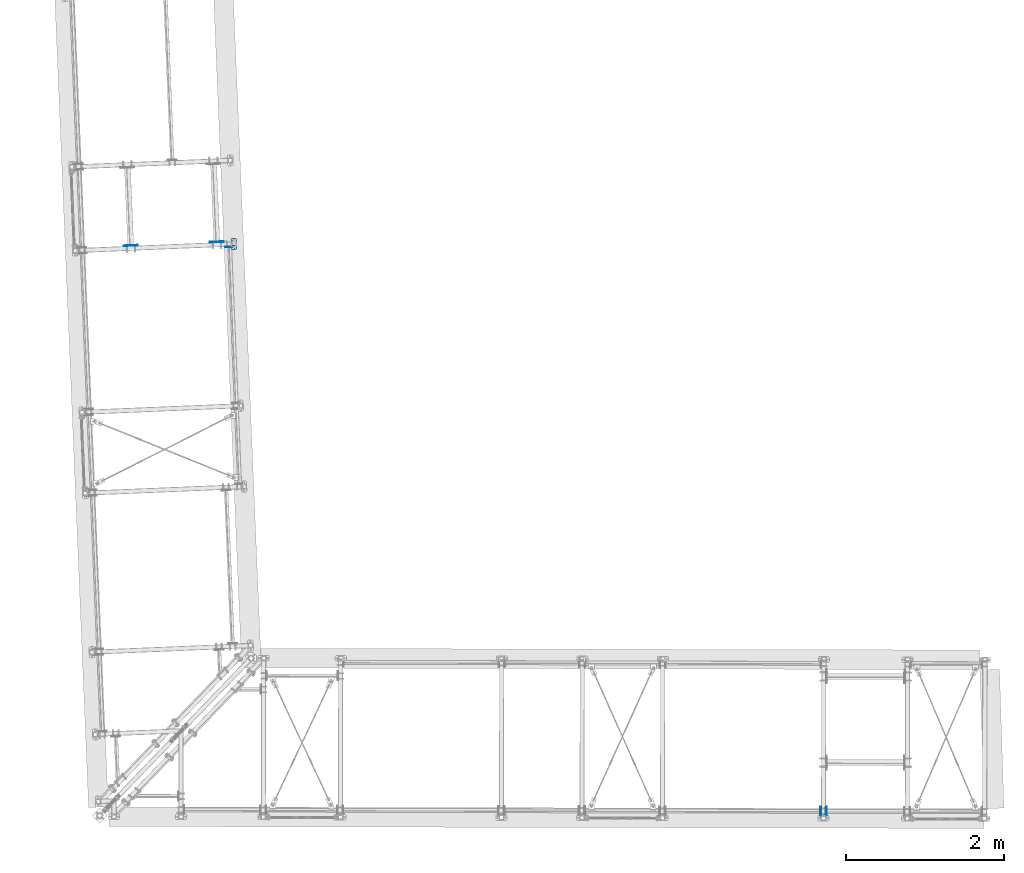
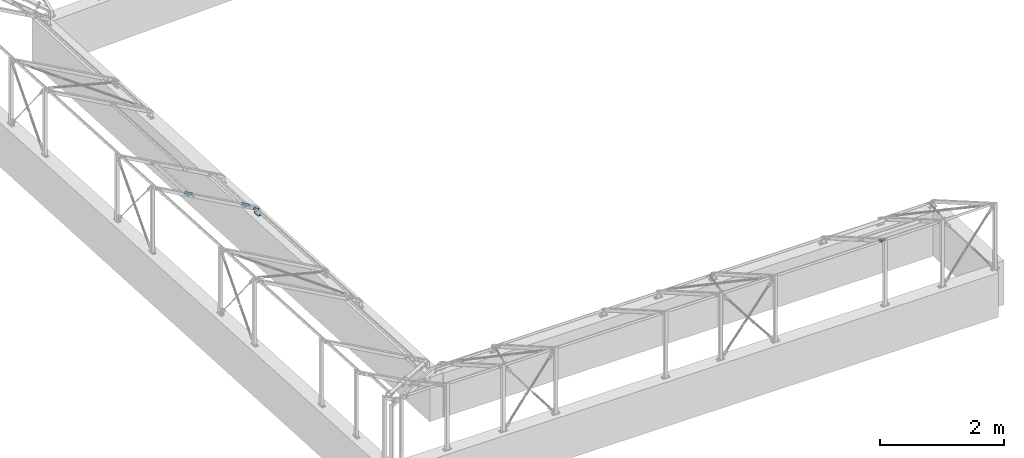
# One storey, part 41 of 288: 6 plates, 36 openings.
"""IFC2X3 building model written with IfcOpenShell, lengths in millimetres."""

from ifc_helpers import new_model, entity, si_unit, converted_unit, point, frame, frame_2d, origin, origin_with_axes, origin_2d_with_axis, place, context, project, spatial, polyline, circle_curve, line_curve, trimmed, segment, composite_curve, circle, outline, extrude, material, layer, layer_set, element, save


model = new_model("IFC2X3")

# Units and contexts
model_context = context("Model", 3, precision=1e-09, world=origin_with_axes())
ifc_project = project(units=[si_unit("LENGTHUNIT", "METRE", prefix="MILLI"), si_unit("AREAUNIT", "SQUARE_METRE"), si_unit("VOLUMEUNIT", "CUBIC_METRE"), converted_unit("PLANEANGLEUNIT", "DEGREE", entity("IfcPlaneAngleMeasure", 0.01745329), si_unit("PLANEANGLEUNIT", "RADIAN"), dimensions=[0, 0, 0, 0, 0, 0, 0])], contexts=[model_context])

# Site, building, storey
site_placement = place(None, origin_with_axes())
site = spatial("IfcSite", under=ifc_project, at=site_placement, Name="Remont ?wietlik?w nad MC w NCPP w Opolu", CompositionType="ELEMENT")
building_placement = place(site_placement, origin_with_axes())
building = spatial("IfcBuilding", under=site, at=building_placement, Name="Konstrukcja 1", CompositionType="ELEMENT")
storey_placement = place(building_placement, origin_with_axes())
storey = spatial("IfcBuildingStorey", under=building, at=storey_placement, Name="Default Storey", CompositionType="ELEMENT", Elevation=0.0)

# Plate, openings
ifc_material = material(Name="S235")
ifc_layer_1 = layer(ifc_material, 8.0)
ifc_layer_set_1 = layer_set([ifc_layer_1], Name="S235")
plate_1_placement = place(None, frame((1475.574847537, 7080.214060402, 149.694694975), z_axis=(-0.041662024, 0.999131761, 1.7472e-05), x_axis=(0.499566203, 0.020815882, 0.866025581)))
plate_1 = element("IfcPlate", 1, at=plate_1_placement, inside=storey, material=ifc_layer_set_1, Name="-", ObjectType="-", context=model_context, shape_type="SweptSolid", body=[
    extrude(outline(polyline([(0.0, 0.0), (40.0, 0.0), (40.0, 120.0), (0.0, 120.0), (0.0, 0.0)])), origin_with_axes(), (0.0, 0.0, 1.0), 8.0),
])
opening_1_placement = place(plate_1_placement, frame((0.0, 0.0, -0.01), z_axis=(0.0, 0.0, 1.0), x_axis=(1.0, 0.0, 0.0)))
element("IfcOpeningElement", 2, at=opening_1_placement, cuts=plate_1, ObjectType="Opening", context=model_context, shape_type="SweptSolid", body=[
    extrude(outline(composite_curve([segment(trimmed(line_curve((40.0, 0.0), (0.0, 1.0), 10.0), [point((40.0, 0.0))], [point((40.0, 10.0))], True, "CARTESIAN"), True, "CONTINUOUS"), segment(trimmed(circle_curve(frame_2d((30.0, 10.0), x_axis=(-1.0, 0.0)), 10.0), [point((40.0, 10.0))], [point((30.0, 0.0))], False, "CARTESIAN"), True, "CONTINUOUS"), segment(trimmed(line_curve((30.0, 0.0), (1.0, 0.0), 10.0), [point((30.0, 0.0))], [point((40.0, 0.0))], True, "CARTESIAN"), True, "CONTINUOUS")], self_intersect=False)), origin(), (0.0, 0.0, 1.0), 8.02),
])
opening_2_placement = place(plate_1_placement, frame((0.0, 0.0, -0.01), z_axis=(0.0, 0.0, 1.0), x_axis=(1.0, 0.0, 0.0)))
element("IfcOpeningElement", 3, at=opening_2_placement, cuts=plate_1, ObjectType="Opening", context=model_context, shape_type="SweptSolid", body=[
    extrude(outline(composite_curve([segment(trimmed(line_curve((0.0, 0.0), (1.0, 0.0), 10.0), [point((0.0, 0.0))], [point((10.0, 0.0))], True, "CARTESIAN"), True, "CONTINUOUS"), segment(trimmed(circle_curve(frame_2d((10.0, 10.0), x_axis=(-1.0, 0.0)), 10.0), [point((10.0, 0.0))], [point((0.0, 10.0))], False, "CARTESIAN"), True, "CONTINUOUS"), segment(trimmed(line_curve((0.0, 10.0), (0.0, -1.0), 10.0), [point((0.0, 10.0))], [point((0.0, 0.0))], True, "CARTESIAN"), True, "CONTINUOUS")], self_intersect=False)), origin(), (0.0, 0.0, 1.0), 8.02),
])
opening_3_placement = place(plate_1_placement, frame((0.0, 0.0, -0.01), z_axis=(0.0, 0.0, 1.0), x_axis=(1.0, 0.0, 0.0)))
element("IfcOpeningElement", 4, at=opening_3_placement, cuts=plate_1, ObjectType="Opening", context=model_context, shape_type="SweptSolid", body=[
    extrude(outline(composite_curve([segment(trimmed(line_curve((40.0, 120.0), (-1.0, 0.0), 10.0), [point((40.0, 120.0))], [point((30.0, 120.0))], True, "CARTESIAN"), True, "CONTINUOUS"), segment(trimmed(circle_curve(frame_2d((30.0, 110.0), x_axis=(-1.0, 0.0)), 10.0), [point((30.0, 120.0))], [point((40.0, 110.0))], False, "CARTESIAN"), True, "CONTINUOUS"), segment(trimmed(line_curve((40.0, 110.0), (0.0, 1.0), 10.0), [point((40.0, 110.0))], [point((40.0, 120.0))], True, "CARTESIAN"), True, "CONTINUOUS")], self_intersect=False)), origin(), (0.0, 0.0, 1.0), 8.02),
])
opening_4_placement = place(plate_1_placement, frame((0.0, 0.0, -0.01), z_axis=(0.0, 0.0, 1.0), x_axis=(1.0, 0.0, 0.0)))
element("IfcOpeningElement", 5, at=opening_4_placement, cuts=plate_1, ObjectType="Opening", context=model_context, shape_type="SweptSolid", body=[
    extrude(outline(composite_curve([segment(trimmed(line_curve((0.0, 120.0), (0.0, -1.0), 10.0), [point((0.0, 120.0))], [point((0.0, 110.0))], True, "CARTESIAN"), True, "CONTINUOUS"), segment(trimmed(circle_curve(frame_2d((10.0, 110.0), x_axis=(-1.0, 0.0)), 10.0), [point((0.0, 110.0))], [point((10.0, 120.0))], False, "CARTESIAN"), True, "CONTINUOUS"), segment(trimmed(line_curve((10.0, 120.0), (-1.0, 0.0), 10.0), [point((10.0, 120.0))], [point((0.0, 120.0))], True, "CARTESIAN"), True, "CONTINUOUS")], self_intersect=False)), origin(), (0.0, 0.0, 1.0), 8.02),
])
opening_5_placement = place(plate_1_placement, frame((19.99982953, 27.001003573, 8.499903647), z_axis=(-2.0054e-05, 4.2e-07, 1.0), x_axis=(1.0, 0.0, 2.0054e-05)))
element("IfcOpeningElement", 6, at=opening_5_placement, cuts=plate_1, ObjectType="Opening", context=model_context, shape_type="SweptSolid", body=[
    extrude(circle(Radius=7.001, at=frame_2d((-4e-09, -7.001), x_axis=(1.0, 0.0))), origin(), (0.0, 0.0, -1.0), 9.000033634),
])
opening_6_placement = place(plate_1_placement, frame((19.999829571, 107.001003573, 8.499870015), z_axis=(-2.0054e-05, 4.2e-07, 1.0), x_axis=(1.0, 0.0, 2.0054e-05)))
element("IfcOpeningElement", 7, at=opening_6_placement, cuts=plate_1, ObjectType="Opening", context=model_context, shape_type="SweptSolid", body=[
    extrude(circle(Radius=7.001, at=frame_2d((-4e-09, -7.001), x_axis=(1.0, 0.0))), origin(), (0.0, 0.0, -1.0), 9.000033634),
])

plate_2_placement = place(None, frame((191.035896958, 7104.706763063, 881.983931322), z_axis=(0.041671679, -0.999131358, 1.05e-07), x_axis=(0.865273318, 0.036088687, -0.499999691)))
plate_2 = element("IfcPlate", 8, at=plate_2_placement, inside=storey, material=ifc_layer_set_1, Name="-", ObjectType="-", context=model_context, shape_type="SweptSolid", body=[
    extrude(outline(polyline([(0.0, 0.0), (179.999999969, 0.0), (179.999999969, 60.000000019), (0.0, 60.000000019), (0.0, 0.0)])), origin_with_axes(), (0.0, 0.0, 1.0), 8.0),
])
opening_7_placement = place(plate_2_placement, frame((0.0, 0.0, -0.01), z_axis=(0.0, 0.0, 1.0), x_axis=(1.0, 0.0, 0.0)))
element("IfcOpeningElement", 9, at=opening_7_placement, cuts=plate_2, ObjectType="Opening", context=model_context, shape_type="SweptSolid", body=[
    extrude(outline(composite_curve([segment(trimmed(line_curve((0.0, 0.0), (1.0, 0.0), 10.0), [point((0.0, 0.0))], [point((10.0, 0.0))], True, "CARTESIAN"), True, "CONTINUOUS"), segment(trimmed(circle_curve(frame_2d((10.0, 10.0), x_axis=(-1.0, 0.0)), 10.0), [point((10.0, 0.0))], [point((0.0, 10.0))], False, "CARTESIAN"), True, "CONTINUOUS"), segment(trimmed(line_curve((0.0, 10.0), (0.0, -1.0), 10.0), [point((0.0, 10.0))], [point((0.0, 0.0))], True, "CARTESIAN"), True, "CONTINUOUS")], self_intersect=False)), origin(), (0.0, 0.0, 1.0), 8.02),
])
opening_8_placement = place(plate_2_placement, frame((0.0, 0.0, -0.01), z_axis=(0.0, 0.0, 1.0), x_axis=(1.0, 0.0, 0.0)))
element("IfcOpeningElement", 10, at=opening_8_placement, cuts=plate_2, ObjectType="Opening", context=model_context, shape_type="SweptSolid", body=[
    extrude(outline(composite_curve([segment(trimmed(line_curve((0.0, 60.000000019), (0.0, -1.0), 10.0), [point((0.0, 60.000000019))], [point((0.0, 50.000000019))], True, "CARTESIAN"), True, "CONTINUOUS"), segment(trimmed(circle_curve(frame_2d((10.0, 50.000000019), x_axis=(-1.0, 0.0)), 10.0), [point((0.0, 50.000000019))], [point((10.0, 60.000000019))], False, "CARTESIAN"), True, "CONTINUOUS"), segment(trimmed(line_curve((10.0, 60.000000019), (-1.0, 0.0), 10.0), [point((10.0, 60.000000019))], [point((0.0, 60.000000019))], True, "CARTESIAN"), True, "CONTINUOUS")], self_intersect=False)), origin(), (0.0, 0.0, 1.0), 8.02),
])
opening_9_placement = place(plate_2_placement, frame((0.0, 0.0, -0.01), z_axis=(0.0, 0.0, 1.0), x_axis=(1.0, 0.0, 0.0)))
element("IfcOpeningElement", 11, at=opening_9_placement, cuts=plate_2, ObjectType="Opening", context=model_context, shape_type="SweptSolid", body=[
    extrude(outline(composite_curve([segment(trimmed(line_curve((179.999999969, 60.000000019), (-1.0, 0.0), 10.0), [point((179.999999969, 60.000000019))], [point((169.999999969, 60.000000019))], True, "CARTESIAN"), True, "CONTINUOUS"), segment(trimmed(circle_curve(frame_2d((169.999999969, 50.000000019), x_axis=(-1.0, 0.0)), 10.0), [point((169.999999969, 60.000000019))], [point((179.999999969, 50.000000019))], False, "CARTESIAN"), True, "CONTINUOUS"), segment(trimmed(line_curve((179.999999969, 50.000000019), (0.0, 1.0), 10.0), [point((179.999999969, 50.000000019))], [point((179.999999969, 60.000000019))], True, "CARTESIAN"), True, "CONTINUOUS")], self_intersect=False)), origin(), (0.0, 0.0, 1.0), 8.02),
])
opening_10_placement = place(plate_2_placement, frame((0.0, 0.0, -0.01), z_axis=(0.0, 0.0, 1.0), x_axis=(1.0, 0.0, 0.0)))
element("IfcOpeningElement", 12, at=opening_10_placement, cuts=plate_2, ObjectType="Opening", context=model_context, shape_type="SweptSolid", body=[
    extrude(outline(composite_curve([segment(trimmed(line_curve((179.999999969, 0.0), (0.0, 1.0), 10.0), [point((179.999999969, 0.0))], [point((179.999999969, 10.0))], True, "CARTESIAN"), True, "CONTINUOUS"), segment(trimmed(circle_curve(frame_2d((169.999999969, 10.0), x_axis=(-1.0, 0.0)), 10.0), [point((179.999999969, 10.0))], [point((169.999999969, 0.0))], False, "CARTESIAN"), True, "CONTINUOUS"), segment(trimmed(line_curve((169.999999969, 0.0), (1.0, 0.0), 10.0), [point((169.999999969, 0.0))], [point((179.999999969, 0.0))], True, "CARTESIAN"), True, "CONTINUOUS")], self_intersect=False)), origin(), (0.0, 0.0, 1.0), 8.02),
])
opening_11_placement = place(plate_2_placement, frame((39.000999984, 30.000000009, 8.5), z_axis=(0.0, 0.0, 1.0), x_axis=(1.0, 0.0, 0.0)))
element("IfcOpeningElement", 13, at=opening_11_placement, cuts=plate_2, ObjectType="Opening", context=model_context, shape_type="SweptSolid", body=[
    extrude(circle(Radius=9.001, at=frame_2d((-9.001, 0.0), x_axis=(1.0, 0.0))), origin(), (0.0, 0.0, -1.0), 9.0),
])
opening_12_placement = place(plate_2_placement, frame((159.000999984, 30.000000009, 8.5), z_axis=(0.0, 0.0, 1.0), x_axis=(1.0, 0.0, 0.0)))
element("IfcOpeningElement", 14, at=opening_12_placement, cuts=plate_2, ObjectType="Opening", context=model_context, shape_type="SweptSolid", body=[
    extrude(circle(Radius=9.001, at=frame_2d((-9.001, 0.0), x_axis=(1.0, 0.0))), origin(), (0.0, 0.0, -1.0), 9.0),
])

plate_3_placement = place(None, frame((1311.264015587, 7151.42960328, 303.962909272), z_axis=(-0.041671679, 0.999131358, -1.05e-07), x_axis=(0.865273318, 0.036088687, -0.499999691)))
plate_3 = element("IfcPlate", 15, at=plate_3_placement, inside=storey, material=ifc_layer_set_1, Name="-", ObjectType="-", context=model_context, shape_type="SweptSolid", body=[
    extrude(outline(polyline([(0.0, 0.0), (179.999999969, 0.0), (179.999999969, 60.000000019), (0.0, 60.000000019), (0.0, 0.0)])), origin_with_axes(), (0.0, 0.0, -1.0), 8.0),
])
opening_13_placement = place(plate_3_placement, frame((0.0, 0.0, 0.01), z_axis=(0.0, 0.0, 1.0), x_axis=(1.0, 0.0, 0.0)))
element("IfcOpeningElement", 16, at=opening_13_placement, cuts=plate_3, ObjectType="Opening", context=model_context, shape_type="SweptSolid", body=[
    extrude(outline(composite_curve([segment(trimmed(line_curve((0.0, 0.0), (1.0, 0.0), 10.0), [point((0.0, 0.0))], [point((10.0, 0.0))], True, "CARTESIAN"), True, "CONTINUOUS"), segment(trimmed(circle_curve(frame_2d((10.0, 10.0), x_axis=(-1.0, 0.0)), 10.0), [point((10.0, 0.0))], [point((0.0, 10.0))], False, "CARTESIAN"), True, "CONTINUOUS"), segment(trimmed(line_curve((0.0, 10.0), (0.0, -1.0), 10.0), [point((0.0, 10.0))], [point((0.0, 0.0))], True, "CARTESIAN"), True, "CONTINUOUS")], self_intersect=False)), origin(), (0.0, 0.0, -1.0), 8.02),
])
opening_14_placement = place(plate_3_placement, frame((0.0, 60.000000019, 0.01), z_axis=(0.0, 0.0, 1.0), x_axis=(0.0, -1.0, 0.0)))
element("IfcOpeningElement", 17, at=opening_14_placement, cuts=plate_3, ObjectType="Opening", context=model_context, shape_type="SweptSolid", body=[
    extrude(outline(composite_curve([segment(trimmed(line_curve((0.0, 0.0), (1.0, 0.0), 10.0), [point((0.0, 0.0))], [point((10.0, 0.0))], True, "CARTESIAN"), True, "CONTINUOUS"), segment(trimmed(circle_curve(frame_2d((10.0, 10.0), x_axis=(-1.0, 0.0)), 10.0), [point((10.0, 0.0))], [point((0.0, 10.0))], False, "CARTESIAN"), True, "CONTINUOUS"), segment(trimmed(line_curve((0.0, 10.0), (0.0, -1.0), 10.0), [point((0.0, 10.0))], [point((0.0, 0.0))], True, "CARTESIAN"), True, "CONTINUOUS")], self_intersect=False)), origin(), (0.0, 0.0, -1.0), 8.02),
])
opening_15_placement = place(plate_3_placement, frame((179.999999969, 60.000000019, 0.01), z_axis=(0.0, 0.0, 1.0), x_axis=(-1.0, 0.0, 0.0)))
element("IfcOpeningElement", 18, at=opening_15_placement, cuts=plate_3, ObjectType="Opening", context=model_context, shape_type="SweptSolid", body=[
    extrude(outline(composite_curve([segment(trimmed(line_curve((0.0, 0.0), (1.0, 0.0), 10.0), [point((0.0, 0.0))], [point((10.0, 0.0))], True, "CARTESIAN"), True, "CONTINUOUS"), segment(trimmed(circle_curve(frame_2d((10.0, 10.0), x_axis=(-1.0, 0.0)), 10.0), [point((10.0, 0.0))], [point((0.0, 10.0))], False, "CARTESIAN"), True, "CONTINUOUS"), segment(trimmed(line_curve((0.0, 10.0), (0.0, -1.0), 10.0), [point((0.0, 10.0))], [point((0.0, 0.0))], True, "CARTESIAN"), True, "CONTINUOUS")], self_intersect=False)), origin(), (0.0, 0.0, -1.0), 8.02),
])
opening_16_placement = place(plate_3_placement, frame((179.999999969, 0.0, 0.01), z_axis=(0.0, 0.0, 1.0), x_axis=(0.0, 1.0, 0.0)))
element("IfcOpeningElement", 19, at=opening_16_placement, cuts=plate_3, ObjectType="Opening", context=model_context, shape_type="SweptSolid", body=[
    extrude(outline(composite_curve([segment(trimmed(line_curve((0.0, 0.0), (1.0, 0.0), 10.0), [point((0.0, 0.0))], [point((10.0, 0.0))], True, "CARTESIAN"), True, "CONTINUOUS"), segment(trimmed(circle_curve(frame_2d((10.0, 10.0), x_axis=(-1.0, 0.0)), 10.0), [point((10.0, 0.0))], [point((0.0, 10.0))], False, "CARTESIAN"), True, "CONTINUOUS"), segment(trimmed(line_curve((0.0, 10.0), (0.0, -1.0), 10.0), [point((0.0, 10.0))], [point((0.0, 0.0))], True, "CARTESIAN"), True, "CONTINUOUS")], self_intersect=False)), origin(), (0.0, 0.0, -1.0), 8.02),
])
opening_17_placement = place(plate_3_placement, frame((89.999999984, 30.000000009, -8.5), z_axis=(0.0, 0.0, 1.0), x_axis=(-1.0, 0.0, 0.0)))
element("IfcOpeningElement", 20, at=opening_17_placement, cuts=plate_3, ObjectType="Opening", context=model_context, shape_type="SweptSolid", body=[
    extrude(circle(Radius=9.001, at=frame_2d((60.0, 0.0), x_axis=(1.0, 0.0))), origin(), (0.0, 0.0, 1.0), 9.0),
])
opening_18_placement = place(plate_3_placement, frame((89.999999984, 30.000000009, -8.5), z_axis=(0.0, 0.0, 1.0), x_axis=(-1.0, 0.0, 0.0)))
element("IfcOpeningElement", 21, at=opening_18_placement, cuts=plate_3, ObjectType="Opening", context=model_context, shape_type="SweptSolid", body=[
    extrude(circle(Radius=9.001, at=frame_2d((-60.0, 0.0), x_axis=(1.0, 0.0))), origin(), (0.0, 0.0, 1.0), 9.0),
])

plate_4_placement = place(None, frame((9086.240256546, -120.843531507, 1232.679630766), z_axis=(0.999997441, -0.002262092, 1.05e-07), x_axis=(0.001959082, 0.866023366, -0.499999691)))
plate_4 = element("IfcPlate", 22, at=plate_4_placement, inside=storey, material=ifc_layer_set_1, Name="-", ObjectType="-", context=model_context, shape_type="SweptSolid", body=[
    extrude(outline(polyline([(0.0, 0.0), (120.0, 0.0), (120.0, 40.0), (0.0, 40.0), (0.0, 0.0)])), origin_with_axes(), (0.0, 0.0, 1.0), 8.0),
])
opening_19_placement = place(plate_4_placement, frame((0.0, 0.0, -0.01), z_axis=(0.0, 0.0, 1.0), x_axis=(1.0, 0.0, 0.0)))
element("IfcOpeningElement", 23, at=opening_19_placement, cuts=plate_4, ObjectType="Opening", context=model_context, shape_type="SweptSolid", body=[
    extrude(outline(composite_curve([segment(trimmed(line_curve((0.0, 40.0), (0.0, -1.0), 10.0), [point((0.0, 40.0))], [point((0.0, 30.0))], True, "CARTESIAN"), True, "CONTINUOUS"), segment(trimmed(circle_curve(frame_2d((10.0, 30.0), x_axis=(-1.0, 0.0)), 10.0), [point((0.0, 30.0))], [point((10.0, 40.0))], False, "CARTESIAN"), True, "CONTINUOUS"), segment(trimmed(line_curve((10.0, 40.0), (-1.0, 0.0), 10.0), [point((10.0, 40.0))], [point((0.0, 40.0))], True, "CARTESIAN"), True, "CONTINUOUS")], self_intersect=False)), origin(), (0.0, 0.0, 1.0), 8.02),
])
opening_20_placement = place(plate_4_placement, frame((0.0, 0.0, -0.01), z_axis=(0.0, 0.0, 1.0), x_axis=(1.0, 0.0, 0.0)))
element("IfcOpeningElement", 24, at=opening_20_placement, cuts=plate_4, ObjectType="Opening", context=model_context, shape_type="SweptSolid", body=[
    extrude(outline(composite_curve([segment(trimmed(line_curve((0.0, 0.0), (1.0, 0.0), 10.0), [point((0.0, 0.0))], [point((10.0, 0.0))], True, "CARTESIAN"), True, "CONTINUOUS"), segment(trimmed(circle_curve(frame_2d((10.0, 10.0), x_axis=(-1.0, 0.0)), 10.0), [point((10.0, 0.0))], [point((0.0, 10.0))], False, "CARTESIAN"), True, "CONTINUOUS"), segment(trimmed(line_curve((0.0, 10.0), (0.0, -1.0), 10.0), [point((0.0, 10.0))], [point((0.0, 0.0))], True, "CARTESIAN"), True, "CONTINUOUS")], self_intersect=False)), origin(), (0.0, 0.0, 1.0), 8.02),
])
opening_21_placement = place(plate_4_placement, frame((0.0, 0.0, -0.01), z_axis=(0.0, 0.0, 1.0), x_axis=(1.0, 0.0, 0.0)))
element("IfcOpeningElement", 25, at=opening_21_placement, cuts=plate_4, ObjectType="Opening", context=model_context, shape_type="SweptSolid", body=[
    extrude(outline(composite_curve([segment(trimmed(line_curve((120.0, 40.0), (-1.0, 0.0), 10.0), [point((120.0, 40.0))], [point((110.0, 40.0))], True, "CARTESIAN"), True, "CONTINUOUS"), segment(trimmed(circle_curve(frame_2d((110.0, 30.0), x_axis=(-1.0, 0.0)), 10.0), [point((110.0, 40.0))], [point((120.0, 30.0))], False, "CARTESIAN"), True, "CONTINUOUS"), segment(trimmed(line_curve((120.0, 30.0), (0.0, 1.0), 10.0), [point((120.0, 30.0))], [point((120.0, 40.0))], True, "CARTESIAN"), True, "CONTINUOUS")], self_intersect=False)), origin(), (0.0, 0.0, 1.0), 8.02),
])
opening_22_placement = place(plate_4_placement, frame((0.0, 0.0, -0.01), z_axis=(0.0, 0.0, 1.0), x_axis=(1.0, 0.0, 0.0)))
element("IfcOpeningElement", 26, at=opening_22_placement, cuts=plate_4, ObjectType="Opening", context=model_context, shape_type="SweptSolid", body=[
    extrude(outline(composite_curve([segment(trimmed(line_curve((120.0, 0.0), (0.0, 1.0), 10.0), [point((120.0, 0.0))], [point((120.0, 10.0))], True, "CARTESIAN"), True, "CONTINUOUS"), segment(trimmed(circle_curve(frame_2d((110.0, 10.0), x_axis=(-1.0, 0.0)), 10.0), [point((120.0, 10.0))], [point((110.0, 0.0))], False, "CARTESIAN"), True, "CONTINUOUS"), segment(trimmed(line_curve((110.0, 0.0), (1.0, 0.0), 10.0), [point((110.0, 0.0))], [point((120.0, 0.0))], True, "CARTESIAN"), True, "CONTINUOUS")], self_intersect=False)), origin(), (0.0, 0.0, 1.0), 8.02),
])
opening_23_placement = place(plate_4_placement, frame((27.001, 20.0, -0.5), z_axis=(0.0, 0.0, -1.0), x_axis=(-1.0, 0.0, 0.0)))
element("IfcOpeningElement", 27, at=opening_23_placement, cuts=plate_4, ObjectType="Opening", context=model_context, shape_type="SweptSolid", body=[
    extrude(circle(Radius=7.001, at=frame_2d((7.001, 0.0), x_axis=(1.0, 0.0))), origin(), (0.0, 0.0, -1.0), 9.0),
])
opening_24_placement = place(plate_4_placement, frame((107.001, 20.0, -0.5), z_axis=(0.0, 0.0, -1.0), x_axis=(-1.0, 0.0, 0.0)))
element("IfcOpeningElement", 28, at=opening_24_placement, cuts=plate_4, ObjectType="Opening", context=model_context, shape_type="SweptSolid", body=[
    extrude(circle(Radius=7.001, at=frame_2d((7.001, 0.0), x_axis=(1.0, 0.0))), origin(), (0.0, 0.0, -1.0), 9.0),
])

plate_5_placement = place(None, frame((9016.240285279, -120.685331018, 1232.679370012), z_axis=(0.999997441, -0.002262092, 1.05e-07), x_axis=(0.001959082, 0.866023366, -0.499999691)))
plate_5 = element("IfcPlate", 29, at=plate_5_placement, inside=storey, material=ifc_layer_set_1, Name="-", ObjectType="-", context=model_context, shape_type="SweptSolid", body=[
    extrude(outline(polyline([(0.0, 0.0), (120.0, 0.0), (120.0, 40.0), (0.0, 40.0), (0.0, 0.0)])), origin_with_axes(), (0.0, 0.0, 1.0), 8.0),
])
opening_25_placement = place(plate_5_placement, frame((0.0, 0.0, -0.01), z_axis=(0.0, 0.0, 1.0), x_axis=(1.0, 0.0, 0.0)))
element("IfcOpeningElement", 30, at=opening_25_placement, cuts=plate_5, ObjectType="Opening", context=model_context, shape_type="SweptSolid", body=[
    extrude(outline(composite_curve([segment(trimmed(line_curve((0.0, 40.0), (0.0, -1.0), 10.0), [point((0.0, 40.0))], [point((0.0, 30.0))], True, "CARTESIAN"), True, "CONTINUOUS"), segment(trimmed(circle_curve(frame_2d((10.0, 30.0), x_axis=(-1.0, 0.0)), 10.0), [point((0.0, 30.0))], [point((10.0, 40.0))], False, "CARTESIAN"), True, "CONTINUOUS"), segment(trimmed(line_curve((10.0, 40.0), (-1.0, 0.0), 10.0), [point((10.0, 40.0))], [point((0.0, 40.0))], True, "CARTESIAN"), True, "CONTINUOUS")], self_intersect=False)), origin(), (0.0, 0.0, 1.0), 8.02),
])
opening_26_placement = place(plate_5_placement, frame((0.0, 0.0, -0.01), z_axis=(0.0, 0.0, 1.0), x_axis=(1.0, 0.0, 0.0)))
element("IfcOpeningElement", 31, at=opening_26_placement, cuts=plate_5, ObjectType="Opening", context=model_context, shape_type="SweptSolid", body=[
    extrude(outline(composite_curve([segment(trimmed(line_curve((0.0, 0.0), (1.0, 0.0), 10.0), [point((0.0, 0.0))], [point((10.0, 0.0))], True, "CARTESIAN"), True, "CONTINUOUS"), segment(trimmed(circle_curve(frame_2d((10.0, 10.0), x_axis=(-1.0, 0.0)), 10.0), [point((10.0, 0.0))], [point((0.0, 10.0))], False, "CARTESIAN"), True, "CONTINUOUS"), segment(trimmed(line_curve((0.0, 10.0), (0.0, -1.0), 10.0), [point((0.0, 10.0))], [point((0.0, 0.0))], True, "CARTESIAN"), True, "CONTINUOUS")], self_intersect=False)), origin(), (0.0, 0.0, 1.0), 8.02),
])
opening_27_placement = place(plate_5_placement, frame((0.0, 0.0, -0.01), z_axis=(0.0, 0.0, 1.0), x_axis=(1.0, 0.0, 0.0)))
element("IfcOpeningElement", 32, at=opening_27_placement, cuts=plate_5, ObjectType="Opening", context=model_context, shape_type="SweptSolid", body=[
    extrude(outline(composite_curve([segment(trimmed(line_curve((120.0, 40.0), (-1.0, 0.0), 10.0), [point((120.0, 40.0))], [point((110.0, 40.0))], True, "CARTESIAN"), True, "CONTINUOUS"), segment(trimmed(circle_curve(frame_2d((110.0, 30.0), x_axis=(-1.0, 0.0)), 10.0), [point((110.0, 40.0))], [point((120.0, 30.0))], False, "CARTESIAN"), True, "CONTINUOUS"), segment(trimmed(line_curve((120.0, 30.0), (0.0, 1.0), 10.0), [point((120.0, 30.0))], [point((120.0, 40.0))], True, "CARTESIAN"), True, "CONTINUOUS")], self_intersect=False)), origin(), (0.0, 0.0, 1.0), 8.02),
])
opening_28_placement = place(plate_5_placement, frame((0.0, 0.0, -0.01), z_axis=(0.0, 0.0, 1.0), x_axis=(1.0, 0.0, 0.0)))
element("IfcOpeningElement", 33, at=opening_28_placement, cuts=plate_5, ObjectType="Opening", context=model_context, shape_type="SweptSolid", body=[
    extrude(outline(composite_curve([segment(trimmed(line_curve((120.0, 0.0), (0.0, 1.0), 10.0), [point((120.0, 0.0))], [point((120.0, 10.0))], True, "CARTESIAN"), True, "CONTINUOUS"), segment(trimmed(circle_curve(frame_2d((110.0, 10.0), x_axis=(-1.0, 0.0)), 10.0), [point((120.0, 10.0))], [point((110.0, 0.0))], False, "CARTESIAN"), True, "CONTINUOUS"), segment(trimmed(line_curve((110.0, 0.0), (1.0, 0.0), 10.0), [point((110.0, 0.0))], [point((120.0, 0.0))], True, "CARTESIAN"), True, "CONTINUOUS")], self_intersect=False)), origin(), (0.0, 0.0, 1.0), 8.02),
])
opening_29_placement = place(plate_5_placement, frame((27.001, 20.000292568, -0.5), z_axis=(0.0, 0.0, -1.0), x_axis=(-1.0, 0.0, 0.0)))
element("IfcOpeningElement", 34, at=opening_29_placement, cuts=plate_5, ObjectType="Opening", context=model_context, shape_type="SweptSolid", body=[
    extrude(circle(Radius=7.001, at=frame_2d((7.001, 0.0), x_axis=(1.0, 0.0))), origin(), (0.0, 0.0, -1.0), 9.0),
])
opening_30_placement = place(plate_5_placement, frame((107.001, 20.000292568, -0.5), z_axis=(0.0, 0.0, -1.0), x_axis=(-1.0, 0.0, 0.0)))
element("IfcOpeningElement", 35, at=opening_30_placement, cuts=plate_5, ObjectType="Opening", context=model_context, shape_type="SweptSolid", body=[
    extrude(circle(Radius=7.001, at=frame_2d((7.001, 0.0), x_axis=(1.0, 0.0))), origin(), (0.0, 0.0, -1.0), 9.0),
])

ifc_layer_2 = layer(ifc_material, 10.0)
ifc_layer_set_2 = layer_set([ifc_layer_2], Name="S235")
plate_6_placement = place(None, frame((1627.153376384, 7055.508734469, 10.000000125), z_axis=(0.0, 0.0, -1.0), x_axis=(-0.999131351, -0.041671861, 0.0)))
plate_6 = element("IfcPlate", 36, at=plate_6_placement, inside=storey, material=ifc_layer_set_2, Name="Baseplate", ObjectType="Baseplate", context=model_context, shape_type="SweptSolid", body=[
    extrude(outline(polyline([(0.0, 0.0), (70.0, 0.0), (70.0, 140.0), (0.0, 140.0), (0.0, 0.0)])), origin_with_axes(), (0.0, 0.0, 1.0), 10.0),
])
opening_31_placement = place(plate_6_placement, frame((0.0, 0.0, -0.01), z_axis=(0.0, 0.0, 1.0), x_axis=(1.0, 0.0, 0.0)))
element("IfcOpeningElement", 37, at=opening_31_placement, cuts=plate_6, ObjectType="Opening", context=model_context, shape_type="SweptSolid", body=[
    extrude(outline(composite_curve([segment(trimmed(line_curve((0.0, 140.0), (0.0, -1.0), 10.0), [point((0.0, 140.0))], [point((0.0, 130.0))], True, "CARTESIAN"), True, "CONTINUOUS"), segment(trimmed(circle_curve(frame_2d((10.0, 130.0), x_axis=(-1.0, 0.0)), 10.0), [point((0.0, 130.0))], [point((10.0, 140.0))], False, "CARTESIAN"), True, "CONTINUOUS"), segment(trimmed(line_curve((10.0, 140.0), (-1.0, 0.0), 10.0), [point((10.0, 140.0))], [point((0.0, 140.0))], True, "CARTESIAN"), True, "CONTINUOUS")], self_intersect=False)), origin(), (0.0, 0.0, 1.0), 10.02),
])
opening_32_placement = place(plate_6_placement, frame((0.0, 0.0, -0.01), z_axis=(0.0, 0.0, 1.0), x_axis=(1.0, 0.0, 0.0)))
element("IfcOpeningElement", 38, at=opening_32_placement, cuts=plate_6, ObjectType="Opening", context=model_context, shape_type="SweptSolid", body=[
    extrude(outline(composite_curve([segment(trimmed(line_curve((70.0, 140.0), (-1.0, 0.0), 10.0), [point((70.0, 140.0))], [point((60.0, 140.0))], True, "CARTESIAN"), True, "CONTINUOUS"), segment(trimmed(circle_curve(frame_2d((60.0, 130.0), x_axis=(-1.0, 0.0)), 10.0), [point((60.0, 140.0))], [point((70.0, 130.0))], False, "CARTESIAN"), True, "CONTINUOUS"), segment(trimmed(line_curve((70.0, 130.0), (0.0, 1.0), 10.0), [point((70.0, 130.0))], [point((70.0, 140.0))], True, "CARTESIAN"), True, "CONTINUOUS")], self_intersect=False)), origin(), (0.0, 0.0, 1.0), 10.02),
])
opening_33_placement = place(plate_6_placement, frame((0.0, 0.0, -0.01), z_axis=(0.0, 0.0, 1.0), x_axis=(1.0, 0.0, 0.0)))
element("IfcOpeningElement", 39, at=opening_33_placement, cuts=plate_6, ObjectType="Opening", context=model_context, shape_type="SweptSolid", body=[
    extrude(outline(composite_curve([segment(trimmed(line_curve((0.0, 0.0), (1.0, 0.0), 10.0), [point((0.0, 0.0))], [point((10.0, 0.0))], True, "CARTESIAN"), True, "CONTINUOUS"), segment(trimmed(circle_curve(frame_2d((10.0, 10.0), x_axis=(-1.0, 0.0)), 10.0), [point((10.0, 0.0))], [point((0.0, 10.0))], False, "CARTESIAN"), True, "CONTINUOUS"), segment(trimmed(line_curve((0.0, 10.0), (0.0, -1.0), 10.0), [point((0.0, 10.0))], [point((0.0, 0.0))], True, "CARTESIAN"), True, "CONTINUOUS")], self_intersect=False)), origin(), (0.0, 0.0, 1.0), 10.02),
])
opening_34_placement = place(plate_6_placement, frame((0.0, 0.0, -0.01), z_axis=(0.0, 0.0, 1.0), x_axis=(1.0, 0.0, 0.0)))
element("IfcOpeningElement", 40, at=opening_34_placement, cuts=plate_6, ObjectType="Opening", context=model_context, shape_type="SweptSolid", body=[
    extrude(outline(composite_curve([segment(trimmed(line_curve((70.0, 0.0), (0.0, 1.0), 10.0), [point((70.0, 0.0))], [point((70.0, 10.0))], True, "CARTESIAN"), True, "CONTINUOUS"), segment(trimmed(circle_curve(frame_2d((60.0, 10.0), x_axis=(-1.0, 0.0)), 10.0), [point((70.0, 10.0))], [point((60.0, 0.0))], False, "CARTESIAN"), True, "CONTINUOUS"), segment(trimmed(line_curve((60.0, 0.0), (1.0, 0.0), 10.0), [point((60.0, 0.0))], [point((70.0, 0.0))], True, "CARTESIAN"), True, "CONTINUOUS")], self_intersect=False)), origin(), (0.0, 0.0, 1.0), 10.02),
])
opening_35_placement = place(plate_6_placement, frame((35.0, 120.0, 10.5), z_axis=(0.0, 0.0, -1.0), x_axis=(1.0, 0.0, 0.0)))
element("IfcOpeningElement", 41, at=opening_35_placement, cuts=plate_6, ObjectType="Opening", context=model_context, shape_type="SweptSolid", body=[
    extrude(circle(Radius=6.001, at=origin_2d_with_axis()), origin(), (0.0, 0.0, 1.0), 11.0),
])
opening_36_placement = place(plate_6_placement, frame((35.0, 20.0, 10.5), z_axis=(0.0, 0.0, -1.0), x_axis=(1.0, 0.0, 0.0)))
element("IfcOpeningElement", 42, at=opening_36_placement, cuts=plate_6, ObjectType="Opening", context=model_context, shape_type="SweptSolid", body=[
    extrude(circle(Radius=6.001, at=origin_2d_with_axis()), origin(), (0.0, 0.0, 1.0), 11.0),
])

save(model, "model.ifc")
